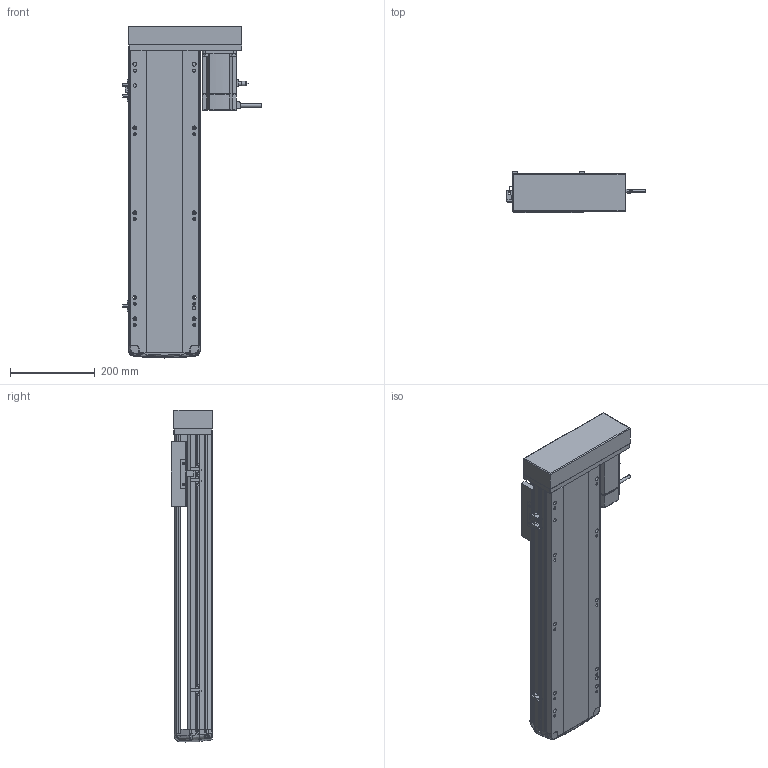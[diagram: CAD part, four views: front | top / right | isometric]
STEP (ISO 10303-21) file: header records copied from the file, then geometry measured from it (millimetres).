
FILE_DESCRIPTION (( 'STEP AP214' ), '1' );
FILE_NAME ('RTH17-XX-500-L-M75-C4.STEP', '2025-10-24T10:32:44', ( '' ), ( '' ), 'SwSTEP 2.0', 'SolidWorks 2018', '' );
FILE_SCHEMA (( 'AUTOMOTIVE_DESIGN' ));
Length unit declared in the file: millimetre
Products named in the file (10): RTH17-XX-500-L-M75-C4; N_RTH-L-012 感应片(外置)^RTH17-XX-XX-L-M75-C4（方程式）; N_M75^RTH17-XX-XX-L-M75-C4（方程式）; N_RTH17-L-018盖子^RTH17-XX-XX-L-M75-C4（方程式）; N_OMRON EE-SX672 換覜ん^RTH17-XX-XX-L-M75-C4ㄗ源最宒ㄘ; N_RTH17-M-011底座^RTH17-XX-XX-L-M75-C4（方程式）; N_RTH17-L-008-P75电机安装板左转折^RTH17-XX-XX-L-M75-C4（方程式）; N_RTH17-GY-001P^RTH17-XX-XX-L-M75-C4（方程式）; N_RTH17-M-007上盖^RTH17-XX-XX-L-M75-C4（方程式）; N_RTH17-E-004丝杆螺母连接座^RTH17-XX-XX-L-M75-C4（方程式）
Assembly tree (11 placements, depth 2):
  RTH17-XX-500-L-M75-C4
    N_RTH17-M-011底座^RTH17-XX-XX-L-M75-C4（方程式）
    N_RTH17-M-007上盖^RTH17-XX-XX-L-M75-C4（方程式）
    N_M75^RTH17-XX-XX-L-M75-C4（方程式）
    N_OMRON EE-SX672 換覜ん^RTH17-XX-XX-L-M75-C4ㄗ源最宒ㄘ  x3
    N_RTH-L-012 感应片(外置)^RTH17-XX-XX-L-M75-C4（方程式）
    N_RTH17-L-008-P75电机安装板左转折^RTH17-XX-XX-L-M75-C4（方程式）
    N_RTH17-L-018盖子^RTH17-XX-XX-L-M75-C4（方程式）
    N_RTH17-E-004丝杆螺母连接座^RTH17-XX-XX-L-M75-C4（方程式）
    N_RTH17-GY-001P^RTH17-XX-XX-L-M75-C4（方程式）
Bounding box: 326.7 x 97 x 783.07 mm (x, y, z)
Volume: 7789591.3 mm3; surface area: 980440.1 mm2
Topology: 13 solids, 15 shells, 1741 faces, 4781 edges, 3094 vertices
Faces by surface type: plane 831, cylinder 496, bspline 377, cone 28, torus 9
Entity records: 50545 total; most frequent: CARTESIAN_POINT 20241, ORIENTED_EDGE 6586, DIRECTION 5473, EDGE_CURVE 3297, VERTEX_POINT 2130, AXIS2_PLACEMENT_3D 1837, LINE 1799, VECTOR 1799
